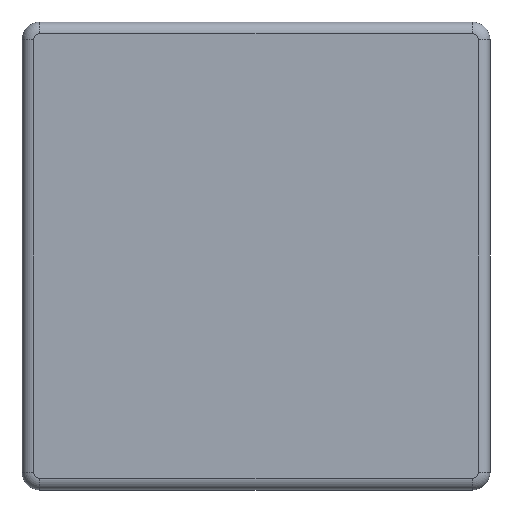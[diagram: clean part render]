
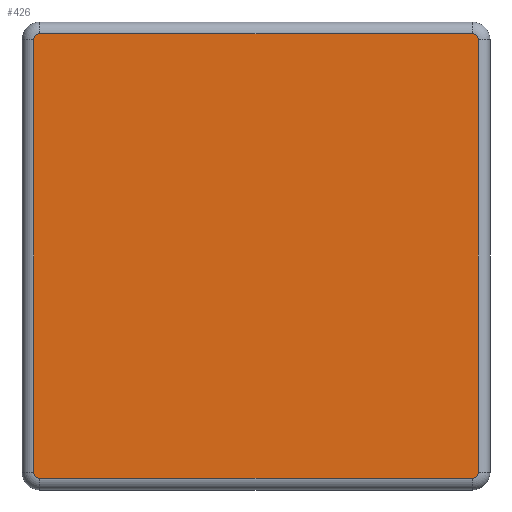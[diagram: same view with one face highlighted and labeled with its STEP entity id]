
A CAD part, front view. The second image highlights one B-rep face of the part: STEP entity #426.
In plain terms, the highlighted planar face has unit normal (0, -1, 0).
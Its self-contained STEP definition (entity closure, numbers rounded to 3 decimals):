
#43 = ORIENTED_EDGE ( 'NONE', *, *, #2514, .T. ) ;
#56 = VECTOR ( 'NONE', #125, 1000. ) ;
#68 = DIRECTION ( 'NONE',  ( 0., 0., -1. ) ) ;
#76 = DIRECTION ( 'NONE',  ( 0., 0., 1. ) ) ;
#125 = DIRECTION ( 'NONE',  ( -1., 0., 0. ) ) ;
#145 = DIRECTION ( 'NONE',  ( 0., -1., 0. ) ) ;
#170 = CARTESIAN_POINT ( 'NONE',  ( 37., -4.3, 38. ) ) ;
#314 = FACE_OUTER_BOUND ( 'NONE', #2491, .T. ) ;
#320 = LINE ( 'NONE', #519, #833 ) ;
#322 = VERTEX_POINT ( 'NONE', #2448 ) ;
#329 = CARTESIAN_POINT ( 'NONE',  ( -38., -4.3, 37. ) ) ;
#359 = CARTESIAN_POINT ( 'NONE',  ( 38., -4.3, -37. ) ) ;
#375 = DIRECTION ( 'NONE',  ( 0., -1., 0. ) ) ;
#426 = ADVANCED_FACE ( 'NONE', ( #314 ), #941, .F. ) ;
#469 = AXIS2_PLACEMENT_3D ( 'NONE', #1441, #145, #1658 ) ;
#519 = CARTESIAN_POINT ( 'NONE',  ( 37., -4.3, -38. ) ) ;
#577 = CIRCLE ( 'NONE', #469, 1. ) ;
#580 = CARTESIAN_POINT ( 'NONE',  ( -37., -4.3, -37. ) ) ;
#666 = VECTOR ( 'NONE', #2704, 1000. ) ;
#721 = CIRCLE ( 'NONE', #968, 1. ) ;
#751 = DIRECTION ( 'NONE',  ( 0., -1., 0. ) ) ;
#754 = VERTEX_POINT ( 'NONE', #329 ) ;
#766 = CIRCLE ( 'NONE', #1016, 1. ) ;
#810 = DIRECTION ( 'NONE',  ( 0., 0., 1. ) ) ;
#833 = VECTOR ( 'NONE', #2224, 1000. ) ;
#844 = VECTOR ( 'NONE', #68, 1000. ) ;
#941 = PLANE ( 'NONE',  #2222 ) ;
#968 = AXIS2_PLACEMENT_3D ( 'NONE', #1671, #375, #1881 ) ;
#1016 = AXIS2_PLACEMENT_3D ( 'NONE', #2029, #751, #2235 ) ;
#1065 = CIRCLE ( 'NONE', #2161, 1. ) ;
#1082 = ORIENTED_EDGE ( 'NONE', *, *, #2667, .T. ) ;
#1144 = CARTESIAN_POINT ( 'NONE',  ( 0., -4.3, 0. ) ) ;
#1153 = ORIENTED_EDGE ( 'NONE', *, *, #1322, .T. ) ;
#1239 = VERTEX_POINT ( 'NONE', #1516 ) ;
#1259 = VERTEX_POINT ( 'NONE', #2365 ) ;
#1294 = ORIENTED_EDGE ( 'NONE', *, *, #1634, .T. ) ;
#1322 = EDGE_CURVE ( 'NONE', #1504, #1875, #320, .T. ) ;
#1334 = EDGE_CURVE ( 'NONE', #322, #2457, #766, .T. ) ;
#1374 = DIRECTION ( 'NONE',  ( 0., 1., 0. ) ) ;
#1414 = LINE ( 'NONE', #1693, #844 ) ;
#1419 = CARTESIAN_POINT ( 'NONE',  ( -37., -4.3, 38. ) ) ;
#1441 = CARTESIAN_POINT ( 'NONE',  ( -37., -4.3, 37. ) ) ;
#1452 = CARTESIAN_POINT ( 'NONE',  ( 38., -4.3, 37. ) ) ;
#1504 = VERTEX_POINT ( 'NONE', #1836 ) ;
#1516 = CARTESIAN_POINT ( 'NONE',  ( -38., -4.3, -37. ) ) ;
#1634 = EDGE_CURVE ( 'NONE', #1875, #2651, #721, .T. ) ;
#1658 = DIRECTION ( 'NONE',  ( 0., 0., 1. ) ) ;
#1671 = CARTESIAN_POINT ( 'NONE',  ( 37., -4.3, -37. ) ) ;
#1693 = CARTESIAN_POINT ( 'NONE',  ( -38., -4.3, -37. ) ) ;
#1715 = LINE ( 'NONE', #1419, #56 ) ;
#1738 = LINE ( 'NONE', #1452, #666 ) ;
#1755 = EDGE_CURVE ( 'NONE', #2457, #1259, #1715, .T. ) ;
#1762 = ORIENTED_EDGE ( 'NONE', *, *, #2374, .T. ) ;
#1824 = EDGE_CURVE ( 'NONE', #1259, #754, #577, .T. ) ;
#1836 = CARTESIAN_POINT ( 'NONE',  ( -37., -4.3, -38. ) ) ;
#1875 = VERTEX_POINT ( 'NONE', #1904 ) ;
#1881 = DIRECTION ( 'NONE',  ( 0., 0., 1. ) ) ;
#1904 = CARTESIAN_POINT ( 'NONE',  ( 37., -4.3, -38. ) ) ;
#2029 = CARTESIAN_POINT ( 'NONE',  ( 37., -4.3, 37. ) ) ;
#2076 = DIRECTION ( 'NONE',  ( 0., -1., 0. ) ) ;
#2161 = AXIS2_PLACEMENT_3D ( 'NONE', #580, #2076, #810 ) ;
#2222 = AXIS2_PLACEMENT_3D ( 'NONE', #1144, #1374, #76 ) ;
#2224 = DIRECTION ( 'NONE',  ( 1., 0., 0. ) ) ;
#2235 = DIRECTION ( 'NONE',  ( 0., 0., 1. ) ) ;
#2365 = CARTESIAN_POINT ( 'NONE',  ( -37., -4.3, 38. ) ) ;
#2374 = EDGE_CURVE ( 'NONE', #2651, #322, #1738, .T. ) ;
#2414 = ORIENTED_EDGE ( 'NONE', *, *, #1824, .T. ) ;
#2448 = CARTESIAN_POINT ( 'NONE',  ( 38., -4.3, 37. ) ) ;
#2451 = ORIENTED_EDGE ( 'NONE', *, *, #1334, .T. ) ;
#2457 = VERTEX_POINT ( 'NONE', #170 ) ;
#2491 = EDGE_LOOP ( 'NONE', ( #43, #1082, #1153, #1294, #1762, #2451, #2589, #2414 ) ) ;
#2514 = EDGE_CURVE ( 'NONE', #754, #1239, #1414, .T. ) ;
#2589 = ORIENTED_EDGE ( 'NONE', *, *, #1755, .T. ) ;
#2651 = VERTEX_POINT ( 'NONE', #359 ) ;
#2667 = EDGE_CURVE ( 'NONE', #1239, #1504, #1065, .T. ) ;
#2704 = DIRECTION ( 'NONE',  ( 0., 0., 1. ) ) ;
